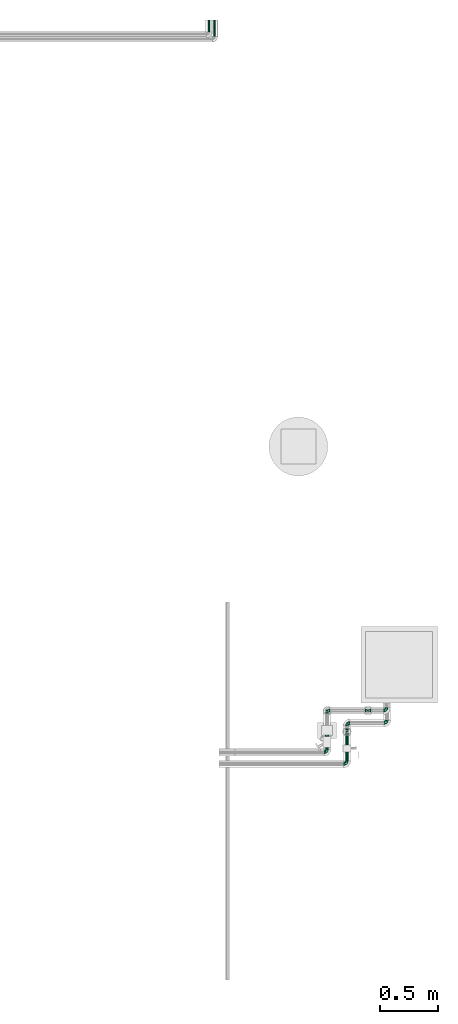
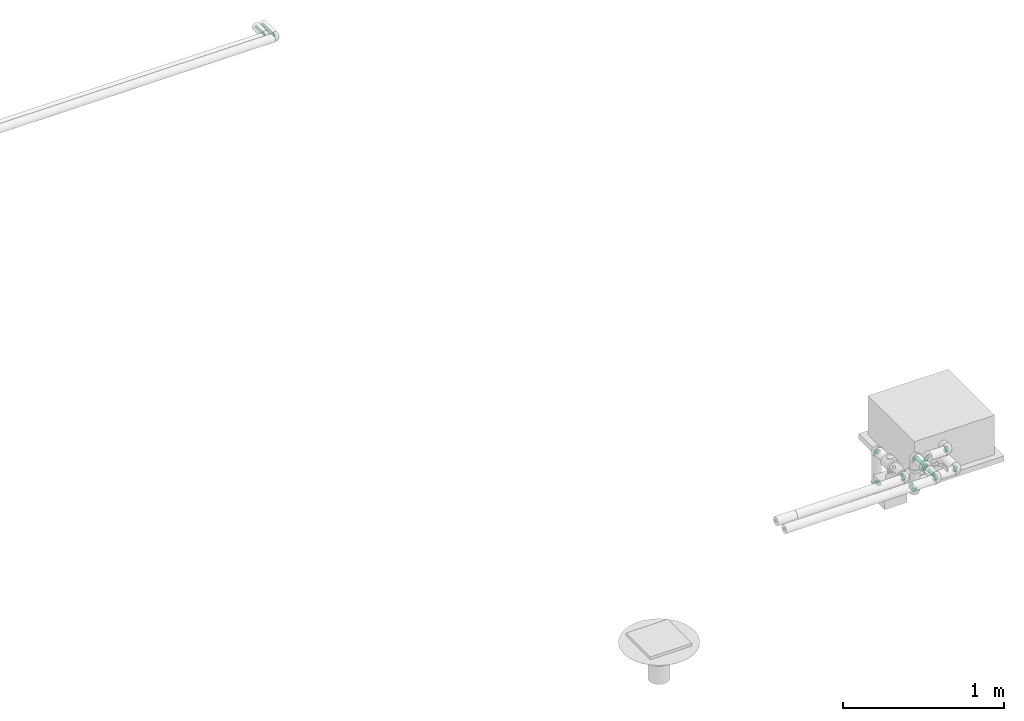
# One storey, part 7 of 13: 11 flow fittings, 6 flow segments.
"""IFC2X3 building model written with IfcOpenShell, lengths in millimetres."""

import ifcopenshell
import ifcopenshell.guid

model = None  # the IFC model being written
_history = None  # IfcOwnerHistory: only IFC2X3 demands one
_inside = {}  # id of a spatial element -> (the spatial element, [elements in it])
_under = {}  # id of a project, library or spatial element -> (it, [spatial elements below it])
_declared = {}  # id of a project -> (the project, [libraries it declares])
_typed = {}  # id of a type object -> (the type object, [elements of that type])
_made_of = {}  # id of a material, layer set ... -> (it, [elements and type objects made of it])


def new_model(schema):
    """Start an empty IFC model of exactly this schema.

    Asked for "IFC4X3", IfcOpenShell would pick the latest addendum, in which some entities
    have other attributes; the version numbers below select the first issue.
    IFC2X3 requires an IfcOwnerHistory on every rooted entity: one is made here for all.
    """
    global model, _history
    if schema == "IFC4X3":
        model = ifcopenshell.file(schema_version=(4, 3, 0, 0))
    else:
        model = ifcopenshell.file(schema=schema)
    _inside.clear()
    _under.clear()
    _declared.clear()
    _typed.clear()
    _made_of.clear()
    _history = None
    if model.schema == "IFC2X3":
        org = make("IfcOrganization", Name="unknown")
        user = make(
            "IfcPersonAndOrganization",
            ThePerson=make("IfcPerson", FamilyName="unknown"),
            TheOrganization=org,
        )
        app = make(
            "IfcApplication",
            ApplicationDeveloper=org,
            Version="unknown",
            ApplicationFullName="unknown",
            ApplicationIdentifier="unknown",
        )
        _history = make(
            "IfcOwnerHistory",
            OwningUser=user,
            OwningApplication=app,
            ChangeAction="ADDED",
            CreationDate=0,
        )
    return model


def make(cls, **values):
    """One entity of the class cls with the attributes given. An attribute that is None is left unset."""
    return model.create_entity(
        cls, **{name: value for name, value in values.items() if value is not None}
    )


def entity(cls, *values):
    """Any entity or typed value of the class cls, its attributes in the order of the schema. None: left unset."""
    e = model.create_entity(cls)
    for i, value in enumerate(values):
        if value is not None:
            e[i] = value
    return e


def rooted(cls, **values):
    """An entity with a GlobalId (a new one), such as an element, a storey or a relation."""
    return make(cls, GlobalId=ifcopenshell.guid.new(), OwnerHistory=_history, **values)


def si_unit(unit_type, name, prefix=None):
    """IfcSIUnit, for example si_unit("LENGTHUNIT", "METRE", prefix="MILLI")."""
    return make("IfcSIUnit", UnitType=unit_type, Prefix=prefix, Name=name)


def converted_unit(unit_type, name, factor, base, dimensions=None, offset=None):
    """IfcConversionBasedUnit, such as the inch: factor (a typed value) times the base unit."""
    return make(
        "IfcConversionBasedUnit"
        if offset is None
        else "IfcConversionBasedUnitWithOffset",
        ConversionOffset=offset,
        Dimensions=None
        if dimensions is None
        else entity("IfcDimensionalExponents", *dimensions),
        UnitType=unit_type,
        Name=name,
        ConversionFactor=make(
            "IfcMeasureWithUnit", ValueComponent=factor, UnitComponent=base
        ),
    )


def derived_unit(unit_type, elements):
    """IfcDerivedUnit: a product of units, each with its exponent."""
    return make(
        "IfcDerivedUnit",
        Elements=[
            make("IfcDerivedUnitElement", Unit=unit, Exponent=power)
            for unit, power in elements
        ],
        UnitType=unit_type,
    )


def assignment(units):
    """IfcUnitAssignment: the units of a project."""
    return None if units is None else make("IfcUnitAssignment", Units=units)


def point(xyz):
    """IfcCartesianPoint."""
    return None if xyz is None else make("IfcCartesianPoint", Coordinates=xyz)


def direction(xyz):
    """IfcDirection."""
    return None if xyz is None else make("IfcDirection", DirectionRatios=xyz)


def frame(location, z_axis=None, x_axis=None):
    """IfcAxis2Placement3D, a coordinate frame: its origin and axes. An axis left out is left unset."""
    return make(
        "IfcAxis2Placement3D",
        Location=point(location),
        Axis=direction(z_axis),
        RefDirection=direction(x_axis),
    )


def frame_2d(location, x_axis=None):
    """IfcAxis2Placement2D, a coordinate frame in the plane: its origin and x axis."""
    return make(
        "IfcAxis2Placement2D", Location=point(location), RefDirection=direction(x_axis)
    )


def origin_with_axes():
    """The frame at (0, 0, 0) with the z axis (0, 0, 1) and the x axis (1, 0, 0) written out."""
    return frame((0.0, 0.0, 0.0), z_axis=(0.0, 0.0, 1.0), x_axis=(1.0, 0.0, 0.0))


def origin_2d_with_axis():
    """The frame at (0, 0) in the plane with the x axis (1, 0) written out."""
    return frame_2d((0.0, 0.0), x_axis=(1.0, 0.0))


def place(relative_to, where):
    """IfcLocalPlacement: puts the frame where relative to a parent placement (None: the world)."""
    return make(
        "IfcLocalPlacement", PlacementRelTo=relative_to, RelativePlacement=where
    )


def context(
    kind, dimensions, precision=None, world=None, true_north=None, identifier=None
):
    """IfcGeometricRepresentationContext, for example the 3D "Model" context."""
    return make(
        "IfcGeometricRepresentationContext",
        ContextIdentifier=identifier,
        ContextType=kind,
        CoordinateSpaceDimension=dimensions,
        Precision=precision,
        WorldCoordinateSystem=world,
        TrueNorth=true_north,
    )


def subcontext(parent, identifier, kind, view, scale=None):
    """IfcGeometricRepresentationSubContext, for example "Body" below "Model"."""
    return make(
        "IfcGeometricRepresentationSubContext",
        ContextIdentifier=identifier,
        ContextType=kind,
        ParentContext=parent,
        TargetScale=scale,
        TargetView=view,
    )


def project(units=None, contexts=None):
    """IfcProject with its units and contexts."""
    return rooted(
        "IfcProject",
        Name="project",
        RepresentationContexts=contexts,
        UnitsInContext=assignment(units),
    )


def spatial(cls, under=None, at=None, **own):
    """A site, building, storey or space (cls), placed at a placement, below another one or the project."""
    s = rooted(cls, ObjectPlacement=at, **own)
    if under is not None:
        _under.setdefault(under.id(), (under, []))[1].append(s)
    return s


def profile(cls, at=None, kind="AREA", **sizes):
    """A parametric profile (cls). Its sizes go by their IFC names, for example OverallWidth=200.0."""
    return make(cls, ProfileType=kind, Position=at, **sizes)


def hollow_circle(**sizes):
    """IfcCircleHollowProfileDef."""
    return profile("IfcCircleHollowProfileDef", **sizes)


def extrude(swept, where, along, depth):
    """IfcExtrudedAreaSolid: the profile swept, set in the frame where, extruded along a direction by depth."""
    return make(
        "IfcExtrudedAreaSolid",
        SweptArea=swept,
        Position=where,
        ExtrudedDirection=direction(along),
        Depth=depth,
    )


def faces_of(points, faces, orient=None, outer=None):
    """IfcFace entities. A face is a list of loops; a loop is a list of indices into points, from 0.

    orient and outer hold one flag for each loop. By default every Orientation is true, the
    first loop of a face is its IfcFaceOuterBound and the others are IfcFaceBound.
    """
    made = []
    for i, loops in enumerate(faces):
        bounds = []
        for j, loop in enumerate(loops):
            is_outer = j == 0 if outer is None else outer[i][j]
            bounds.append(
                make(
                    "IfcFaceOuterBound" if is_outer else "IfcFaceBound",
                    Bound=make("IfcPolyLoop", Polygon=[points[k] for k in loop]),
                    Orientation=True if orient is None else orient[i][j],
                )
            )
        made.append(make("IfcFace", Bounds=bounds))
    return made


def open_shell(faces, orient=None, outer=None):
    """The faces of one IfcOpenShell. surface_model builds it on its shared points."""
    return ("IfcOpenShell", faces, orient, outer)


def surface_model(cls, points, shells):
    """IfcFaceBasedSurfaceModel or IfcShellBasedSurfaceModel (cls): surfaces that need not close."""
    shared = [point(p) for p in points]
    made = [make(c, CfsFaces=faces_of(shared, fs, o, b)) for c, fs, o, b in shells]
    if cls == "IfcFaceBasedSurfaceModel":
        return make(cls, FbsmFaces=made)
    return make(cls, SbsmBoundary=made)


def shape(context_of_items, identifier, shape_type, items):
    """IfcShapeRepresentation: the items that make up one representation, for example the "Body"."""
    return make(
        "IfcShapeRepresentation",
        ContextOfItems=context_of_items,
        RepresentationIdentifier=identifier,
        RepresentationType=shape_type,
        Items=items,
    )


def source(mapping_origin, context_of_items, identifier, shape_type, items):
    """IfcRepresentationMap: a shape defined once, which mapped items show again and again."""
    return make(
        "IfcRepresentationMap",
        MappingOrigin=mapping_origin,
        MappedRepresentation=shape(context_of_items, identifier, shape_type, items),
    )


def transform(
    local_origin,
    x_axis=None,
    y_axis=None,
    z_axis=None,
    scale=None,
    scale2=None,
    scale3=None,
    uniform=True,
):
    """IfcCartesianTransformationOperator3D, or its non-uniform kind. x_axis, y_axis, z_axis: its Axis1, 2, 3."""
    if uniform:
        return make(
            "IfcCartesianTransformationOperator3D",
            Axis1=direction(x_axis),
            Axis2=direction(y_axis),
            LocalOrigin=point(local_origin),
            Scale=scale,
            Axis3=direction(z_axis),
        )
    return make(
        "IfcCartesianTransformationOperator3DnonUniform",
        Axis1=direction(x_axis),
        Axis2=direction(y_axis),
        LocalOrigin=point(local_origin),
        Scale=scale,
        Axis3=direction(z_axis),
        Scale2=scale2,
        Scale3=scale3,
    )


def mapped(mapping_source, mapping_target):
    """IfcMappedItem: shows the shape of a source again, moved by a transform."""
    return make(
        "IfcMappedItem", MappingSource=mapping_source, MappingTarget=mapping_target
    )


def made_of(thing, what):
    """Note that an element or type object is made of a material, layer set ...; save() writes the relation."""
    if what is not None:
        _made_of.setdefault(what.id(), (what, []))[1].append(thing)
    return thing


def type_object(cls, material=None, **own):
    """A type object (cls), such as IfcWallType, which elements share."""
    return made_of(rooted(cls, **own), material)


def element(
    cls,
    number,
    at=None,
    inside=None,
    cuts=None,
    type_object=None,
    material=None,
    context=None,
    identifier="Body",
    shape_type=None,
    held_by="IfcProductDefinitionShape",
    body=None,
    shapes=None,
    **own,
):
    """One element of the class cls, such as IfcWall. Its Tag is "e" and its number.

    at: its placement. inside: the storey or other place that contains it. cuts: it is an
    opening in that element (IfcRelVoidsElement). A single representation is given by context,
    identifier, shape_type and body (its items); several are given by shapes. held_by: the class
    of the entity that holds the representations. save() writes the other relations.
    """
    e = rooted(cls, Tag="e%d" % number, ObjectPlacement=at, **own)
    if body is not None:
        shapes = [shape(context, identifier, shape_type, body)]
    if shapes is not None:
        e.Representation = make(held_by, Representations=shapes)
    if inside is not None:
        _inside.setdefault(inside.id(), (inside, []))[1].append(e)
    if cuts is not None:
        rooted(
            "IfcRelVoidsElement", RelatingBuildingElement=cuts, RelatedOpeningElement=e
        )
    if type_object is not None:
        _typed.setdefault(type_object.id(), (type_object, []))[1].append(e)
    return made_of(e, material)


def aggregate(whole, parts):
    """IfcRelAggregates: a whole, such as a stair, and the parts it consists of."""
    return rooted("IfcRelAggregates", RelatingObject=whole, RelatedObjects=parts)


def save(model, path):
    """Write the relations noted so far, then the file.

    IfcRelAggregates (storeys below a building ...), IfcRelContainedInSpatialStructure (elements
    in a storey), IfcRelDefinesByType, IfcRelAssociatesMaterial and IfcRelDeclares: one each for
    every whole, place, type object, material and project.
    """
    for whole, parts in _under.values():
        aggregate(whole, parts)
    for where, things in _inside.values():
        rooted(
            "IfcRelContainedInSpatialStructure",
            RelatedElements=things,
            RelatingStructure=where,
        )
    for kind, things in _typed.values():
        rooted("IfcRelDefinesByType", RelatedObjects=things, RelatingType=kind)
    for what, things in _made_of.values():
        rooted("IfcRelAssociatesMaterial", RelatedObjects=things, RelatingMaterial=what)
    for by, libraries in _declared.values():
        rooted("IfcRelDeclares", RelatingContext=by, RelatedDefinitions=libraries)
    model.write(path)


model = new_model("IFC2X3")

# Units and contexts
model_context = context("Model", 3, precision=0.01, world=frame((0.0, 4.29681676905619e-09, 0.0)), true_north=direction((4.01073788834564e-13, 1.0)))
plan_context = context("Plan", 3, precision=0.01, world=frame((0.0, 4.29681676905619e-09, 0.0)), true_north=direction((4.01073788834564e-13, 1.0)))
body_context = subcontext(model_context, "Body", "Model", "MODEL_VIEW")
ifc_project = project(units=[converted_unit("PLANEANGLEUNIT", "DEGREE", entity("IfcPositiveLengthMeasure", 0.0174532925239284), si_unit("PLANEANGLEUNIT", "RADIAN"), dimensions=[0, 0, 0, 0, 0, 0, 0]), si_unit("AREAUNIT", "SQUARE_METRE"), si_unit("LENGTHUNIT", "METRE", prefix="MILLI"), si_unit("MASSUNIT", "GRAM", prefix="KILO"), si_unit("POWERUNIT", "WATT"), si_unit("PRESSUREUNIT", "PASCAL"), si_unit("FORCEUNIT", "NEWTON", prefix="KILO"), si_unit("ELECTRICVOLTAGEUNIT", "VOLT"), si_unit("ELECTRICCURRENTUNIT", "AMPERE"), si_unit("THERMODYNAMICTEMPERATUREUNIT", "DEGREE_CELSIUS"), si_unit("TIMEUNIT", "SECOND"), si_unit("VOLUMEUNIT", "CUBIC_METRE"), derived_unit("LINEARVELOCITYUNIT", [(si_unit("LENGTHUNIT", "METRE"), 1), (si_unit("TIMEUNIT", "SECOND"), -1)]), derived_unit("VOLUMETRICFLOWRATEUNIT", [(si_unit("VOLUMEUNIT", "CUBIC_METRE"), 1), (si_unit("TIMEUNIT", "SECOND"), -1)]), derived_unit("THERMALTRANSMITTANCEUNIT", [(si_unit("POWERUNIT", "WATT"), 1), (si_unit("THERMODYNAMICTEMPERATUREUNIT", "KELVIN"), -1), (si_unit("AREAUNIT", "SQUARE_METRE"), -1)]), derived_unit("SOUNDPRESSUREUNIT", [(si_unit("PRESSUREUNIT", "PASCAL"), 1)])], contexts=[model_context, plan_context])

# Site, building, storey
site_placement = place(None, frame((0.0, -4.29681676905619e-09, 0.0), z_axis=(0.0, 0.0, 1.0), x_axis=(1.0, 0.0, 0.0)))
site = spatial("IfcSite", under=ifc_project, at=site_placement, Name="ENGM", CompositionType="ELEMENT")
building_placement = place(site_placement, frame((0.0, 4.29681676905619e-09, 0.0), z_axis=(0.0, 0.0, 1.0), x_axis=(1.0, 0.0, 0.0)))
building = spatial("IfcBuilding", under=site, at=building_placement, Name="TI", CompositionType="ELEMENT")
storey_placement = place(building_placement, frame((0.0, 0.0, 210900.0), z_axis=(0.0, 0.0, 1.0), x_axis=(1.0, 0.0, 0.0)))
storey = spatial("IfcBuildingStorey", under=building, at=storey_placement, Name="Nivå F", CompositionType="ELEMENT", Elevation=210900.0)

# Flow fittings
pipe_fitting_type = type_object("IfcPipeFittingType", Name="magi_pipe_fe_elbow_short_001", PredefinedType="BEND")
shared_shape_1 = source(origin_with_axes(), body_context, "Body", "SurfaceModel", [
    surface_model("IfcShellBasedSurfaceModel", [(-26.8, 3.46818, -12.94341), (-26.8, 0.0, -13.4), (-26.8, 9.47523, -9.47523), (-26.8, 6.7, -11.60474), (-26.8, 12.94341, -3.46818), (-26.8, 11.60474, -6.7), (-26.8, -6.7, 11.60474), (-26.8, -12.94341, -3.46818), (-26.8, -9.47523, -9.47523), (-26.8, -6.7, -11.60474), (-26.8, -3.46818, -12.94341), (-26.8, -11.60474, -6.7), (-26.8, -13.4, 0.0), (-26.8, 9.47523, 9.47523), (-26.8, 12.94341, 3.46818), (-26.8, 11.60474, 6.7), (-26.8, 3.46818, 12.94341), (-26.8, 6.7, 11.60474), (-26.8, -11.60474, 6.7), (-26.8, -9.47523, 9.47523), (-26.8, -12.94341, 3.46818), (-26.8, -3.46818, 12.94341), (-26.8, 0.0, 13.4), (-26.8, 13.4, 0.0), (-9.47523, 26.8, -9.47523), (0.0, 26.8, -13.4), (-3.46818, 26.8, -12.94341), (-6.7, 26.8, -11.60474), (-11.60474, 26.8, -6.7), (-12.94341, 26.8, -3.46818), (12.94341, 26.8, -3.46818), (6.7, 26.8, 11.60474), (6.7, 26.8, -11.60474), (9.47523, 26.8, -9.47523), (3.46818, 26.8, -12.94341), (11.60474, 26.8, -6.7), (13.4, 26.8, 0.0), (-12.94341, 26.8, 3.46818), (-9.47523, 26.8, 9.47523), (-11.60474, 26.8, 6.7), (-6.7, 26.8, 11.60474), (-3.46818, 26.8, 12.94341), (12.94341, 26.8, 3.46818), (9.47523, 26.8, 9.47523), (11.60474, 26.8, 6.7), (3.46818, 26.8, 12.94341), (0.0, 26.8, 13.4), (-13.4, 26.8, 0.0), (-17.94383, -11.72186, 4.19396), (-19.61933, -10.40522, 7.51874), (-14.00394, -9.97131, 0.0), (-10.88146, -9.75217, 2.96415), (5.6402, 4.14256, 4.06277), (2.9355, 3.86758, 7.99817), (-0.16552, -0.70254, 6.90229), (-11.69279, -8.47867, 6.74741), (-3.60975, -5.23517, 4.12915), (-20.40197, -11.68565, 0.0), (6.07727, 10.7767, 9.16668), (7.71917, 17.5318, 9.98024), (3.23022, 10.34855, 11.14395), (-17.5318, -7.71917, 9.98024), (-19.6814, -5.06542, 12.05518), (-20.47091, -1.77513, 13.17083), (-18.76435, 2.05404, 13.37716), (-10.34855, -3.23022, 11.14395), (-13.34095, -0.12025, 12.98799), (-20.6562, 5.25542, 12.65822), (-21.01515, 11.15223, 8.78653), (-19.1981, 14.0055, 6.12639), (-23.45804, 12.58298, 5.55254), (-13.79572, 19.62699, 6.0655), (-4.65712, 13.17755, 13.37596), (-9.92557, 9.92557, 13.07441), (-7.97904, 5.85569, 13.33097), (-14.12498, 14.96497, 9.49183), (-23.18377, 8.11481, 10.91864), (-3.49778, 8.97497, 13.15743), (-6.65819, 2.45826, 12.5129), (-1.36893, 7.23965, 12.31444), (-22.3163, 13.71444, 3.37662), (-20.76788, 15.89859, 0.0), (-5.00198, 23.11411, 12.55149), (-1.83653, 20.04451, 13.36709), (5.06542, 19.6814, 12.05518), (-4.60225, -3.19632, 8.30444), (-2.39362, 2.39362, 10.95564), (1.77513, 20.47091, 13.17083), (10.40522, 19.61933, 7.51874), (8.47867, 11.69279, 6.74741), (11.72186, 17.94383, 4.19396), (-10.7767, -6.07727, 9.16668), (-14.71477, 20.20527, 3.11661), (-18.32912, 15.92283, 3.19527), (9.75217, 10.88146, 2.96415), (9.97131, 14.00394, 0.0), (11.68565, 20.40197, 0.0), (-17.32477, 17.32477, 0.0), (8.01422, 6.7, 0.0), (-11.0099, 17.80242, 10.25412), (-8.46783, 20.75346, 11.10693), (-11.06207, 21.36651, 8.74797), (-10.13559, 14.48567, 11.94159), (-5.79525, 18.15733, 12.76163), (-14.31139, 12.02432, 11.13575), (-6.7, -8.01422, 0.0), (-14.72492, 5.73985, 13.1602), (-13.14892, 3.28357, 13.39428), (-14.24576, 9.09225, 12.39421), (-7.80572, 13.90987, 12.83655), (0.12025, 13.34095, 12.98799), (-18.45241, 9.09615, 11.28418), (-1.02036, 0.84565, 9.15855), (-3.66591, -4.13183, 6.30134), (-3.02144, -4.33567, 0.0), (1.56761, -1.1228, 3.23127), (-15.89859, 20.76788, 0.0), (4.33567, 3.02144, 0.0), (0.65711, -0.65711, 0.0), (-21.21323, 1.69434, -13.35639), (-11.59215, 19.61477, -8.94181), (-19.9553, -12.05444, -4.41231), (-20.61911, 5.26132, -12.65979), (-18.29002, 15.89425, -3.37935), (-10.94714, -3.38176, -11.24231), (-11.6358, -0.16715, -12.74497), (-5.38395, -0.22423, -10.97991), (-19.45447, 8.78609, -11.20697), (-21.18665, 11.10723, -8.76769), (8.05635, 19.80434, -10.14754), (-16.16073, 12.27967, -10.10626), (-10.65974, -9.81032, -2.24682), (-4.63434, -6.26604, -3.21731), (-12.41035, 15.57424, -10.31822), (-9.54276, 16.38525, -11.6371), (-12.38435, 12.38435, -11.76567), (-1.18054, -2.52878, -5.66699), (1.17703, 2.36499, -8.51656), (4.94456, 3.94062, -5.27361), (-13.23013, 7.7548, -12.95755), (-18.92609, -10.30887, -7.4546), (-19.80434, -8.05635, -10.14754), (-5.46999, 19.49566, -12.70683), (12.05444, 19.9553, -4.41231), (-22.63124, -5.28269, -12.19553), (-11.57403, -7.91736, -7.4927), (-10.00514, -5.4662, -9.37392), (0.56412, 6.29454, -11.17498), (0.16715, 11.6358, -12.74497), (2.76952, 11.43973, -11.70622), (-22.71135, 13.83144, -2.294), (-13.13887, 21.26515, -5.84046), (-14.02683, 21.74629, -2.98452), (10.30887, 18.92609, -7.4546), (-4.73052, 4.73052, -12.6532), (-16.28385, 15.93209, -6.57302), (-1.69434, 21.21323, -13.35639), (-8.4106, 21.03687, -11.08508), (1.68957, 19.74249, -13.15499), (5.28269, 22.63124, -12.19553), (-19.74249, -1.68957, -13.15499), (-16.96978, -4.62448, -11.91765), (-3.16773, 14.76219, -13.39711), (-7.24575, 7.81916, -13.39239), (-7.92886, 12.7032, -13.00116), (-6.57993, -6.26304, -6.05124), (9.46363, 9.95483, -2.39006), (6.59847, 4.89531, -2.6225), (0.29079, -2.47661, -2.876), (-21.42347, 13.17132, -5.65321), (9.35918, 11.66841, -5.08525), (8.33374, 12.94014, -7.69724), (5.4662, 10.00514, -9.37392), (4.62448, 16.96978, -11.91765), (-3.89324, -2.60816, -8.35445), (5.97121, 7.49007, -7.29975), (-14.76219, 3.16773, -13.39711), (-15.36238, 22.06238, 0.0), (-11.66841, -9.35918, -5.08525), (3.63632, 1.19488, -3.35093), (-14.94382, 15.17624, -8.6945)], [open_shell([[[0, 1, 2]], [[3, 0, 2]], [[4, 5, 2]], [[1, 4, 2]], [[6, 1, 7]], [[8, 7, 9]], [[1, 10, 9]], [[11, 7, 8]], [[9, 7, 1]], [[12, 6, 7]], [[4, 1, 6]], [[13, 14, 4]], [[15, 14, 13]], [[16, 17, 13]], [[13, 4, 16]], [[4, 6, 16]], [[18, 19, 20]], [[19, 12, 20]], [[6, 21, 16]], [[19, 6, 12]], [[16, 21, 22]], [[23, 4, 14]], [[24, 25, 26]], [[24, 26, 27]], [[24, 28, 29]], [[24, 29, 25]], [[30, 25, 31]], [[32, 30, 33]], [[32, 34, 25]], [[33, 30, 35]], [[25, 30, 32]], [[30, 31, 36]], [[31, 25, 29]], [[29, 37, 38]], [[38, 37, 39]], [[38, 40, 41]], [[41, 29, 38]], [[41, 31, 29]], [[42, 43, 44]], [[42, 36, 43]], [[41, 45, 31]], [[36, 31, 43]], [[46, 45, 41]], [[37, 29, 47]], [[48, 49, 18]], [[48, 50, 51]], [[52, 53, 54]], [[55, 51, 56]], [[49, 19, 18]], [[57, 48, 20]], [[58, 59, 60]], [[61, 6, 19]], [[61, 62, 6]], [[22, 63, 64]], [[62, 65, 66]], [[59, 43, 31]], [[22, 21, 63]], [[67, 17, 16]], [[68, 69, 70]], [[39, 37, 71]], [[72, 73, 74]], [[69, 68, 75]], [[22, 64, 16]], [[17, 76, 13]], [[15, 13, 68]], [[77, 78, 79]], [[80, 81, 23]], [[41, 82, 83]], [[31, 84, 59]], [[85, 86, 65]], [[45, 46, 87]], [[88, 89, 90]], [[91, 65, 61]], [[46, 41, 83]], [[71, 92, 93]], [[90, 94, 95]], [[84, 31, 45]], [[88, 90, 44]], [[59, 84, 60]], [[42, 44, 90]], [[75, 71, 69]], [[6, 62, 21]], [[90, 96, 42]], [[97, 81, 93]], [[94, 98, 95]], [[92, 97, 93]], [[50, 48, 57]], [[70, 14, 15]], [[99, 100, 101]], [[38, 101, 100]], [[40, 38, 100]], [[102, 103, 100]], [[103, 72, 83]], [[82, 100, 103]], [[82, 41, 40]], [[99, 104, 102]], [[23, 14, 80]], [[67, 16, 64]], [[51, 50, 105]], [[48, 18, 20]], [[49, 55, 61]], [[44, 43, 88]], [[89, 52, 94]], [[106, 107, 74]], [[108, 67, 106]], [[38, 39, 101]], [[109, 102, 73]], [[103, 109, 72]], [[87, 83, 110]], [[76, 68, 13]], [[68, 111, 104]], [[65, 62, 61]], [[63, 62, 66]], [[91, 61, 55]], [[65, 86, 78]], [[87, 84, 45]], [[110, 79, 60]], [[110, 60, 84]], [[86, 112, 60]], [[55, 49, 48]], [[61, 19, 49]], [[43, 59, 88]], [[89, 88, 59]], [[106, 67, 64]], [[76, 67, 111]], [[53, 52, 89]], [[112, 86, 85]], [[56, 113, 55]], [[112, 54, 53]], [[58, 89, 59]], [[56, 51, 105]], [[114, 115, 56]], [[14, 70, 80]], [[69, 71, 93]], [[47, 116, 92]], [[92, 116, 97]], [[39, 71, 101]], [[75, 101, 71]], [[99, 102, 100]], [[108, 104, 111]], [[106, 74, 73]], [[110, 83, 72]], [[78, 74, 66]], [[72, 74, 77]], [[83, 87, 46]], [[84, 87, 110]], [[62, 63, 21]], [[64, 63, 66]], [[20, 12, 57]], [[96, 90, 95]], [[96, 36, 42]], [[115, 117, 52]], [[56, 105, 114]], [[55, 48, 51]], [[89, 94, 90]], [[52, 98, 94]], [[106, 64, 107]], [[108, 106, 73]], [[102, 108, 73]], [[67, 108, 111]], [[102, 104, 108]], [[68, 104, 75]], [[64, 66, 107]], [[66, 74, 107]], [[65, 78, 66]], [[79, 78, 86]], [[60, 79, 86]], [[77, 79, 110]], [[72, 77, 110]], [[78, 77, 74]], [[67, 76, 17]], [[68, 76, 111]], [[100, 82, 40]], [[83, 82, 103]], [[68, 70, 15]], [[80, 69, 93]], [[69, 80, 70]], [[80, 93, 81]], [[55, 85, 91]], [[85, 65, 91]], [[60, 53, 58]], [[53, 89, 58]], [[54, 112, 85]], [[60, 112, 53]], [[85, 113, 54]], [[113, 115, 54]], [[55, 113, 85]], [[115, 113, 56]], [[71, 37, 92]], [[115, 114, 118]], [[47, 92, 37]], [[101, 75, 99]], [[99, 75, 104]], [[72, 109, 73]], [[103, 102, 109]], [[54, 115, 52]], [[117, 115, 118]], [[117, 98, 52]], [[0, 119, 1]], [[28, 24, 120]], [[121, 57, 7]], [[3, 122, 0]], [[97, 123, 81]], [[124, 125, 126]], [[127, 2, 128]], [[33, 129, 32]], [[127, 128, 130]], [[131, 132, 105]], [[133, 134, 135]], [[127, 3, 2]], [[136, 137, 138]], [[139, 122, 127]], [[2, 5, 128]], [[11, 140, 121]], [[141, 140, 8]], [[26, 142, 27]], [[95, 143, 96]], [[144, 9, 10]], [[145, 141, 146]], [[30, 36, 96]], [[147, 148, 149]], [[140, 11, 8]], [[23, 81, 150]], [[130, 133, 135]], [[151, 152, 29]], [[153, 35, 143]], [[147, 154, 148]], [[29, 28, 151]], [[120, 155, 151]], [[33, 153, 129]], [[25, 156, 26]], [[26, 156, 142]], [[143, 35, 30]], [[24, 27, 157]], [[123, 152, 155]], [[158, 34, 159]], [[144, 160, 161]], [[122, 3, 127]], [[148, 162, 158]], [[157, 27, 142]], [[162, 163, 164]], [[159, 34, 32]], [[165, 136, 132]], [[35, 153, 33]], [[166, 98, 167]], [[160, 10, 1]], [[161, 160, 125]], [[95, 166, 143]], [[50, 131, 105]], [[121, 7, 11]], [[168, 114, 132]], [[150, 169, 4]], [[167, 98, 117]], [[34, 158, 25]], [[164, 142, 162]], [[133, 157, 134]], [[8, 9, 141]], [[165, 145, 146]], [[170, 171, 153]], [[129, 172, 173]], [[126, 137, 174]], [[175, 137, 172]], [[148, 158, 173]], [[156, 158, 162]], [[149, 172, 147]], [[148, 154, 163]], [[119, 160, 1]], [[176, 163, 125]], [[176, 125, 160]], [[125, 154, 126]], [[169, 128, 5]], [[127, 130, 135]], [[139, 127, 135]], [[119, 122, 176]], [[120, 151, 28]], [[152, 97, 177]], [[142, 164, 134]], [[120, 24, 157]], [[152, 47, 29]], [[81, 123, 150]], [[123, 155, 169]], [[152, 123, 97]], [[140, 178, 121]], [[121, 178, 131]], [[144, 141, 9]], [[146, 141, 161]], [[30, 96, 143]], [[170, 153, 143]], [[129, 153, 171]], [[159, 129, 173]], [[137, 147, 172]], [[126, 154, 147]], [[172, 171, 175]], [[174, 137, 136]], [[137, 126, 147]], [[126, 146, 124]], [[117, 118, 179]], [[179, 138, 167]], [[128, 169, 155]], [[5, 4, 169]], [[57, 121, 50]], [[57, 12, 7]], [[122, 119, 0]], [[160, 119, 176]], [[158, 156, 25]], [[142, 156, 162]], [[162, 148, 163]], [[139, 135, 164]], [[125, 163, 154]], [[139, 163, 176]], [[163, 139, 164]], [[122, 139, 176]], [[155, 180, 128]], [[180, 120, 133]], [[180, 133, 130]], [[157, 133, 120]], [[142, 134, 157]], [[164, 135, 134]], [[128, 180, 130]], [[120, 180, 155]], [[152, 151, 155]], [[47, 152, 177]], [[169, 150, 123]], [[23, 150, 4]], [[121, 131, 50]], [[178, 165, 132]], [[178, 132, 131]], [[168, 132, 136]], [[145, 165, 178]], [[174, 165, 146]], [[178, 140, 145]], [[141, 145, 140]], [[179, 136, 138]], [[170, 166, 167]], [[168, 179, 118]], [[170, 167, 138]], [[143, 166, 170]], [[95, 98, 166]], [[117, 179, 167]], [[136, 179, 168]], [[129, 159, 32]], [[158, 159, 173]], [[160, 144, 10]], [[141, 144, 161]], [[175, 170, 138]], [[129, 171, 172]], [[170, 175, 171]], [[137, 175, 138]], [[148, 173, 149]], [[172, 149, 173]], [[165, 174, 136]], [[126, 174, 146]], [[146, 161, 124]], [[125, 124, 161]], [[114, 168, 118]], [[114, 105, 132]]])]),
])
for number, where, z_axis, x_axis, name in (
    (1, (610257.26164, 691419.90405, 2740.0), (1.0, 0.0, 0.0), (0.0, 0.0, 1.0), "magi_pipe_fe_elbow_short_001"),
    (2, (610257.26164, 691141.97914, 2740.0), (0.0, 0.0, 1.0), (1.0, 0.0, 0.0), "magi_pipe_fe_elbow_short_001"),
    (3, (610086.18538, 691241.97914, 2740.0), (0.0, 0.0, 1.0), (1.0, 0.0, 0.0), "magi_pipe_fe_elbow_short_001"),
    (4, (610257.26164, 691419.90405, 2474.79999999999), (1.0, 0.0, 0.0), (0.0, 0.0, -1.0), "magi_pipe_fe_elbow_short_001"),
    (5, (610257.26164, 691494.90405, 2474.79999999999), (0.0, 0.0, 1.0), (-1.0, 0.0, 0.0), "magi_pipe_fe_elbow_short_001"),
    (6, (610602.26164, 691494.90405, 2475.0), (0.0, 0.0, 1.0), (1.0, 0.0, 0.0), "magi_pipe_fe_elbow_short_001"),
    (7, (610086.18538, 691600.60738, 2740.0), (-1.0, 0.0, 0.0), (0.0, 1.0, 0.0), "magi_pipe_fe_elbow_short_001"),
    (8, (610086.18538, 691600.60738, 2475.0), (0.0, -1.0, 0.0), (0.0, 0.0, -1.0), "magi_pipe_fe_elbow_short_001"),
    (9, (610439.38538, 691600.60738, 2475.0), (0.0, -1.0, 0.0), (1.0, 0.0, 0.0), "magi_pipe_fe_elbow_short_001"),
    (10, (610439.38538, 691600.60738, 2560.0), (0.0, 1.0, 0.0), (0.0, 0.0, 1.0), "magi_pipe_fe_elbow_short_001"),
    (11, (610599.38538, 691600.60738, 2560.0), (0.0, 0.0, 1.0), (1.0, 0.0, 0.0), "magi_pipe_fe_elbow_short_001"),
):
    element("IfcFlowFitting", number, at=place(storey_placement, frame(where, z_axis=z_axis, x_axis=x_axis)), inside=storey, type_object=pipe_fitting_type, Name=name, context=body_context, shape_type="MappedRepresentation", body=[
        mapped(shared_shape_1, transform((0.0, 0.0, 0.0), scale=1.0)),
    ])

# Flow segments
pipe_segment_type_1 = type_object("IfcPipeSegmentType", Name="Kobberrør", PredefinedType="RIGIDSEGMENT")
shared_shape_2 = source(origin_with_axes(), body_context, "Body", "SweptSolid", [
    extrude(hollow_circle(Radius=9.0, WallThickness=2.0, at=origin_2d_with_axis()), frame((0.0, 0.0, 0.0), z_axis=(1.0, 0.0, 0.0), x_axis=(0.0, 1.0, 0.0)), (0.0, 0.0, 1.0), 104.0),
])
flow_segment_1_placement = place(storey_placement, frame((609069.65402, 697541.51267, 2700.0), z_axis=(0.0, 0.0, 1.0), x_axis=(0.0, -1.0, 0.0)))
element("IfcFlowSegment", 12, at=flow_segment_1_placement, inside=storey, type_object=pipe_segment_type_1, Name="Kobberrør", context=body_context, shape_type="MappedRepresentation", body=[
    mapped(shared_shape_2, transform((0.0, 0.0, 0.0), scale=1.0, scale2=1.0, scale3=1.0, uniform=False)),
])
pipe_segment_type_2 = type_object("IfcPipeSegmentType", Name="Stålrør normaltykke", PredefinedType="RIGIDSEGMENT")
shared_shape_3 = source(origin_with_axes(), body_context, "Body", "SweptSolid", [
    extrude(hollow_circle(Radius=13.3, WallThickness=2.0, at=origin_2d_with_axis()), frame((0.0, 0.0, 0.0), z_axis=(1.0, 0.0, 0.0), x_axis=(0.0, 1.0, 0.0)), (0.0, 0.0, 1.0), 76.7),
])
flow_segment_2_placement = place(storey_placement, frame((610257.26164, 691245.46347, 2740.0), z_axis=(0.0, 0.0, 1.0), x_axis=(0.0, -1.0, 0.0)))
element("IfcFlowSegment", 13, at=flow_segment_2_placement, inside=storey, type_object=pipe_segment_type_2, Name="Stålrør normaltykke", context=body_context, shape_type="MappedRepresentation", body=[
    mapped(shared_shape_3, transform((0.0, 0.0, 0.0), scale=1.0)),
])
shared_shape_4 = source(origin_with_axes(), body_context, "Body", "SweptSolid", [
    extrude(hollow_circle(Radius=13.3, WallThickness=2.0, at=origin_2d_with_axis()), frame((0.0, 0.0, 0.0), z_axis=(1.0, 0.0, 0.0), x_axis=(0.0, 1.0, 0.0)), (0.0, 0.0, 1.0), 8.1),
])
flow_segment_3_placement = place(storey_placement, frame((610086.18538, 691379.55306, 2740.0), z_axis=(0.0, 0.0, 1.0), x_axis=(0.0, 1.0, 0.0)))
element("IfcFlowSegment", 14, at=flow_segment_3_placement, inside=storey, type_object=pipe_segment_type_2, Name="Stålrør normaltykke", context=body_context, shape_type="MappedRepresentation", body=[
    mapped(shared_shape_4, transform((0.0, 0.0, 0.0), scale=1.0)),
])
shared_shape_5 = source(origin_with_axes(), body_context, "Body", "SweptSolid", [
    extrude(hollow_circle(Radius=13.3, WallThickness=2.0, at=origin_2d_with_axis()), frame((0.0, 0.0, 0.0), z_axis=(1.0, 0.0, 0.0), x_axis=(0.0, 1.0, 0.0)), (0.0, 0.0, 1.0), 89.6),
])
flow_segment_4_placement = place(storey_placement, frame((610257.26164, 691393.10405, 2740.0), z_axis=(0.0, 0.0, 1.0), x_axis=(0.0, -1.0, 0.0)))
element("IfcFlowSegment", 15, at=flow_segment_4_placement, inside=storey, type_object=pipe_segment_type_2, Name="Stålrør normaltykke", context=body_context, shape_type="MappedRepresentation", body=[
    mapped(shared_shape_5, transform((0.0, 0.0, 0.0), scale=1.0)),
])
shared_shape_6 = source(origin_with_axes(), body_context, "Body", "SweptSolid", [
    extrude(hollow_circle(Radius=13.3, WallThickness=2.0, at=origin_2d_with_axis()), frame((0.0, 0.0, 0.0), z_axis=(1.0, 0.0, 0.0), x_axis=(0.0, 1.0, 0.0)), (0.0, 0.0, 1.0), 13.8),
])
flow_segment_5_placement = place(storey_placement, frame((610086.18538, 691282.55306, 2740.0), z_axis=(0.0, 0.0, 1.0), x_axis=(0.0, -1.0, 0.0)))
element("IfcFlowSegment", 16, at=flow_segment_5_placement, inside=storey, type_object=pipe_segment_type_2, Name="Stålrør normaltykke", context=body_context, shape_type="MappedRepresentation", body=[
    mapped(shared_shape_6, transform((0.0, 0.0, 0.0), scale=1.0)),
])
shared_shape_7 = source(origin_with_axes(), body_context, "Body", "SweptSolid", [
    extrude(hollow_circle(Radius=9.0, WallThickness=2.0, at=origin_2d_with_axis()), frame((0.0, 0.0, 0.0), z_axis=(1.0, 0.0, 0.0), x_axis=(0.0, 1.0, 0.0)), (0.0, 0.0, 1.0), 144.0),
])
flow_segment_6_placement = place(storey_placement, frame((609117.81817, 697541.51267, 2700.0), z_axis=(0.0, 0.0, 1.0), x_axis=(0.0, -1.0, 0.0)))
element("IfcFlowSegment", 17, at=flow_segment_6_placement, inside=storey, type_object=pipe_segment_type_1, Name="Kobberrør", context=body_context, shape_type="MappedRepresentation", body=[
    mapped(shared_shape_7, transform((0.0, 0.0, 0.0), scale=1.0)),
])

save(model, "model.ifc")
